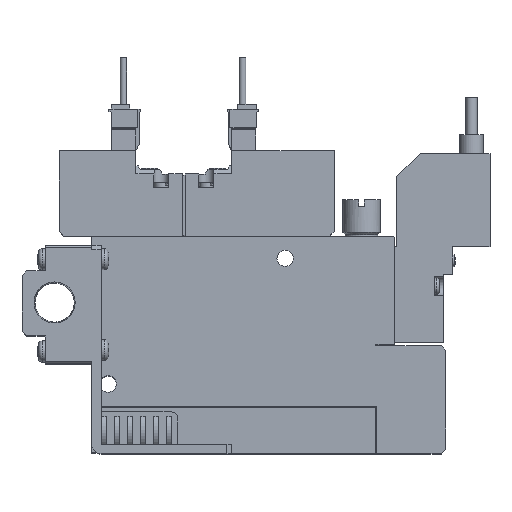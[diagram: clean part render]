
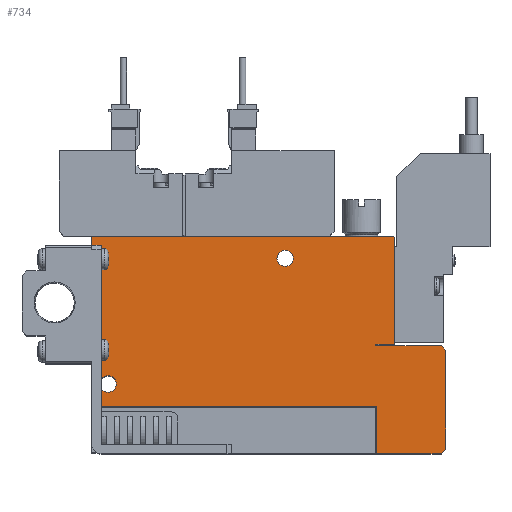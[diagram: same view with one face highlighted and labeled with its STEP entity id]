
A CAD part, top view. The second image highlights one B-rep face of the part: STEP entity #734.
In plain terms, the highlighted planar face has unit normal (0, 0, 1).
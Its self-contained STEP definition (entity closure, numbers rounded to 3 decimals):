
#734=ADVANCED_FACE('',(#1760,#1761,#1762),#1763,.F.);
#1760=FACE_OUTER_BOUND('',#3185,.T.);
#1761=FACE_BOUND('',#3186,.T.);
#1762=FACE_BOUND('',#3187,.T.);
#1763=PLANE('',#3188);
#3185=EDGE_LOOP('',(#6608,#6609,#6610,#6611,#6612,#6613,#6614,#6615,#6616,#6617,#6618,#6619,#6620,#6621));
#3186=EDGE_LOOP('',(#6622));
#3187=EDGE_LOOP('',(#6623));
#3188=AXIS2_PLACEMENT_3D('',#6624,#6625,#6626);
#6608=ORIENTED_EDGE('',*,*,#9895,.T.);
#6609=ORIENTED_EDGE('',*,*,#9896,.F.);
#6610=ORIENTED_EDGE('',*,*,#9844,.F.);
#6611=ORIENTED_EDGE('',*,*,#9897,.T.);
#6612=ORIENTED_EDGE('',*,*,#9898,.T.);
#6613=ORIENTED_EDGE('',*,*,#9899,.T.);
#6614=ORIENTED_EDGE('',*,*,#9900,.T.);
#6615=ORIENTED_EDGE('',*,*,#9901,.T.);
#6616=ORIENTED_EDGE('',*,*,#9893,.T.);
#6617=ORIENTED_EDGE('',*,*,#9850,.T.);
#6618=ORIENTED_EDGE('',*,*,#9902,.T.);
#6619=ORIENTED_EDGE('',*,*,#9903,.T.);
#6620=ORIENTED_EDGE('',*,*,#9904,.T.);
#6621=ORIENTED_EDGE('',*,*,#9905,.T.);
#6622=ORIENTED_EDGE('',*,*,#9906,.F.);
#6623=ORIENTED_EDGE('',*,*,#9907,.F.);
#6624=CARTESIAN_POINT('',(0.0,0.0,5.0));
#6625=DIRECTION('',(0.0,0.0,-1.0));
#6626=DIRECTION('',(0.0,-1.0,0.0));
#9844=EDGE_CURVE('',#12045,#12047,#12048,.T.);
#9850=EDGE_CURVE('',#12059,#12057,#12060,.T.);
#9893=EDGE_CURVE('',#12137,#12059,#12138,.T.);
#9895=EDGE_CURVE('',#12140,#12141,#12142,.T.);
#9896=EDGE_CURVE('',#12047,#12141,#12143,.T.);
#9897=EDGE_CURVE('',#12045,#12144,#12145,.T.);
#9898=EDGE_CURVE('',#12144,#12146,#12147,.T.);
#9899=EDGE_CURVE('',#12146,#12148,#12149,.T.);
#9900=EDGE_CURVE('',#12148,#12150,#12151,.T.);
#9901=EDGE_CURVE('',#12150,#12137,#12152,.T.);
#9902=EDGE_CURVE('',#12057,#12153,#12154,.T.);
#9903=EDGE_CURVE('',#12153,#12155,#12156,.T.);
#9904=EDGE_CURVE('',#12155,#12157,#12158,.T.);
#9905=EDGE_CURVE('',#12157,#12140,#12159,.T.);
#9906=EDGE_CURVE('',#12160,#12160,#12161,.T.);
#9907=EDGE_CURVE('',#12162,#12162,#12163,.T.);
#12045=VERTEX_POINT('',#15745);
#12047=VERTEX_POINT('',#15748);
#12048=LINE('',#15749,#15750);
#12057=VERTEX_POINT('',#15761);
#12059=VERTEX_POINT('',#15764);
#12060=LINE('',#15765,#15766);
#12137=VERTEX_POINT('',#15895);
#12138=LINE('',#15896,#15897);
#12140=VERTEX_POINT('',#15900);
#12141=VERTEX_POINT('',#15901);
#12142=LINE('',#15902,#15903);
#12143=LINE('',#15904,#15905);
#12144=VERTEX_POINT('',#15906);
#12145=LINE('',#15907,#15908);
#12146=VERTEX_POINT('',#15909);
#12147=LINE('',#15910,#15911);
#12148=VERTEX_POINT('',#15912);
#12149=LINE('',#15913,#15914);
#12150=VERTEX_POINT('',#15915);
#12151=LINE('',#15916,#15917);
#12152=LINE('',#15918,#15919);
#12153=VERTEX_POINT('',#15920);
#12154=LINE('',#15921,#15922);
#12155=VERTEX_POINT('',#15923);
#12156=LINE('',#15924,#15925);
#12157=VERTEX_POINT('',#15926);
#12158=LINE('',#15927,#15928);
#12159=LINE('',#15929,#15930);
#12160=VERTEX_POINT('',#15931);
#12161=CIRCLE('',#15932,1.75);
#12162=VERTEX_POINT('',#15933);
#12163=CIRCLE('',#15934,1.75);
#15745=CARTESIAN_POINT('',(61.1,0.0,5.0));
#15748=CARTESIAN_POINT('',(61.1,10.1,5.0));
#15749=CARTESIAN_POINT('',(61.1,0.0,5.0));
#15750=VECTOR('',#19279,1.0);
#15761=CARTESIAN_POINT('',(65.0,23.5,5.0));
#15764=CARTESIAN_POINT('',(61.0,23.5,5.0));
#15765=CARTESIAN_POINT('',(61.0,23.5,5.0));
#15766=VECTOR('',#19289,1.0);
#15895=CARTESIAN_POINT('',(61.0,23.25,5.0));
#15896=CARTESIAN_POINT('',(61.0,23.25,5.0));
#15897=VECTOR('',#19342,1.0);
#15900=CARTESIAN_POINT('',(0.0,46.4,5.0));
#15901=CARTESIAN_POINT('',(0.0,10.1,5.0));
#15902=CARTESIAN_POINT('',(0.0,46.4,5.0));
#15903=VECTOR('',#19344,1.0);
#15904=CARTESIAN_POINT('',(61.1,10.1,5.0));
#15905=VECTOR('',#19345,1.0);
#15906=CARTESIAN_POINT('',(75.0,0.0,5.0));
#15907=CARTESIAN_POINT('',(0.0,0.0,5.0));
#15908=VECTOR('',#19346,1.0);
#15909=CARTESIAN_POINT('',(76.0,1.0,5.0));
#15910=CARTESIAN_POINT('',(75.0,0.0,5.0));
#15911=VECTOR('',#19347,1.0);
#15912=CARTESIAN_POINT('',(76.0,22.25,5.0));
#15913=CARTESIAN_POINT('',(76.0,1.0,5.0));
#15914=VECTOR('',#19348,1.0);
#15915=CARTESIAN_POINT('',(75.0,23.25,5.0));
#15916=CARTESIAN_POINT('',(76.0,22.25,5.0));
#15917=VECTOR('',#19349,1.0);
#15918=CARTESIAN_POINT('',(75.0,23.25,5.0));
#15919=VECTOR('',#19350,1.0);
#15920=CARTESIAN_POINT('',(65.0,46.4,5.0));
#15921=CARTESIAN_POINT('',(65.0,23.5,5.0));
#15922=VECTOR('',#19351,1.0);
#15923=CARTESIAN_POINT('',(64.8,46.6,5.0));
#15924=CARTESIAN_POINT('',(65.0,46.4,5.0));
#15925=VECTOR('',#19352,1.0);
#15926=CARTESIAN_POINT('',(0.2,46.6,5.0));
#15927=CARTESIAN_POINT('',(64.8,46.6,5.0));
#15928=VECTOR('',#19353,1.0);
#15929=CARTESIAN_POINT('',(0.2,46.6,5.0));
#15930=VECTOR('',#19354,1.0);
#15931=CARTESIAN_POINT('',(5.25,15.0,5.0));
#15932=AXIS2_PLACEMENT_3D('',#19355,#19356,#19357);
#15933=CARTESIAN_POINT('',(43.25,42.0,5.0));
#15934=AXIS2_PLACEMENT_3D('',#19358,#19359,#19360);
#19279=DIRECTION('',(0.0,1.0,0.0));
#19289=DIRECTION('',(1.0,0.,0.0));
#19342=DIRECTION('',(0.0,1.0,0.0));
#19344=DIRECTION('',(0.0,-1.0,0.0));
#19345=DIRECTION('',(-1.0,0.0,0.0));
#19346=DIRECTION('',(1.0,0.0,0.0));
#19347=DIRECTION('',(0.707,0.707,0.0));
#19348=DIRECTION('',(0.0,1.0,0.0));
#19349=DIRECTION('',(-0.707,0.707,0.0));
#19350=DIRECTION('',(-1.0,0.0,0.0));
#19351=DIRECTION('',(0.0,1.0,0.0));
#19352=DIRECTION('',(-0.707,0.707,0.0));
#19353=DIRECTION('',(-1.0,0.0,0.0));
#19354=DIRECTION('',(-0.707,-0.707,0.0));
#19355=CARTESIAN_POINT('',(3.5,15.0,5.0));
#19356=DIRECTION('',(0.0,0.0,1.0));
#19357=DIRECTION('',(1.0,0.0,0.0));
#19358=CARTESIAN_POINT('',(41.5,42.0,5.0));
#19359=DIRECTION('',(0.0,0.0,1.0));
#19360=DIRECTION('',(1.0,0.0,0.0));
